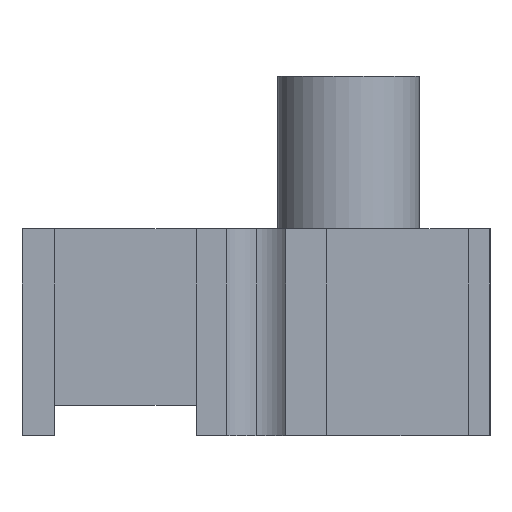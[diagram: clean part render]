
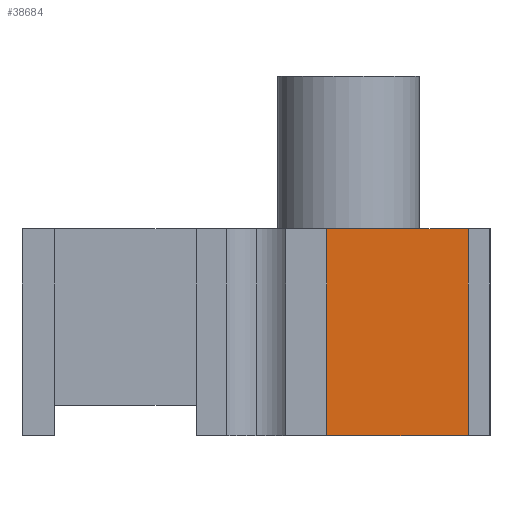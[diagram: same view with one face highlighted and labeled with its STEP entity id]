
A CAD part, left-side view. The second image highlights one B-rep face of the part: STEP entity #38684.
In plain terms, the highlighted planar face has unit normal (-1, 0, 0).
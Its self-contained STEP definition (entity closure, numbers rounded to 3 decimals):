
#35=AXIS2_PLACEMENT_3D('Plane Axis2P3D',#32,#33,#34) ;
#32=CARTESIAN_POINT('Axis2P3D Location',(-3.25,-6.5,-6.6)) ;
#9002=CARTESIAN_POINT('Vertex',(-3.25,0.,1.5)) ;
#38156=CARTESIAN_POINT('Line Origine',(-3.25,-2.75,1.5)) ;
#38160=CARTESIAN_POINT('Vertex',(-3.25,-5.5,1.5)) ;
#38277=CARTESIAN_POINT('Vertex',(-3.25,1.,1.5)) ;
#38280=CARTESIAN_POINT('Line Origine',(-3.25,0.5,1.5)) ;
#38571=CARTESIAN_POINT('Vertex',(-3.25,-5.5,-8.)) ;
#38574=CARTESIAN_POINT('Line Origine',(-3.25,-2.25,-8.)) ;
#38578=CARTESIAN_POINT('Vertex',(-3.25,1.,-8.)) ;
#38660=CARTESIAN_POINT('Line Origine',(-3.25,1.,-3.25)) ;
#38672=CARTESIAN_POINT('Line Origine',(-3.25,-5.5,-3.25)) ;
#33=DIRECTION('Axis2P3D Direction',(-1.,0.,0.)) ;
#34=DIRECTION('Axis2P3D XDirection',(0.,1.,0.)) ;
#38157=DIRECTION('Vector Direction',(0.,1.,0.)) ;
#38281=DIRECTION('Vector Direction',(0.,1.,0.)) ;
#38575=DIRECTION('Vector Direction',(0.,1.,0.)) ;
#38661=DIRECTION('Vector Direction',(0.,0.,-1.)) ;
#38673=DIRECTION('Vector Direction',(0.,0.,-1.)) ;
#38158=VECTOR('Line Direction',#38157,1.) ;
#38282=VECTOR('Line Direction',#38281,1.) ;
#38576=VECTOR('Line Direction',#38575,1.) ;
#38662=VECTOR('Line Direction',#38661,1.) ;
#38674=VECTOR('Line Direction',#38673,1.) ;
#38678=ORIENTED_EDGE('',*,*,#38676,.F.) ;
#38679=ORIENTED_EDGE('',*,*,#38162,.T.) ;
#38680=ORIENTED_EDGE('',*,*,#38284,.T.) ;
#38681=ORIENTED_EDGE('',*,*,#38664,.T.) ;
#38682=ORIENTED_EDGE('',*,*,#38580,.F.) ;
#38684=ADVANCED_FACE('Solid',(#38683),#36,.T.) ;
#38162=EDGE_CURVE('',#38161,#9003,#38159,.T.) ;
#38284=EDGE_CURVE('',#9003,#38278,#38283,.T.) ;
#38580=EDGE_CURVE('',#38572,#38579,#38577,.T.) ;
#38664=EDGE_CURVE('',#38278,#38579,#38663,.T.) ;
#38676=EDGE_CURVE('',#38161,#38572,#38675,.T.) ;
#38677=EDGE_LOOP('',(#38678,#38679,#38680,#38681,#38682)) ;
#38683=FACE_OUTER_BOUND('',#38677,.T.) ;
#38159=LINE('Line',#38156,#38158) ;
#38283=LINE('Line',#38280,#38282) ;
#38577=LINE('Line',#38574,#38576) ;
#38663=LINE('Line',#38660,#38662) ;
#38675=LINE('Line',#38672,#38674) ;
#36=PLANE('',#35) ;
#9003=VERTEX_POINT('',#9002) ;
#38161=VERTEX_POINT('',#38160) ;
#38278=VERTEX_POINT('',#38277) ;
#38572=VERTEX_POINT('',#38571) ;
#38579=VERTEX_POINT('',#38578) ;
